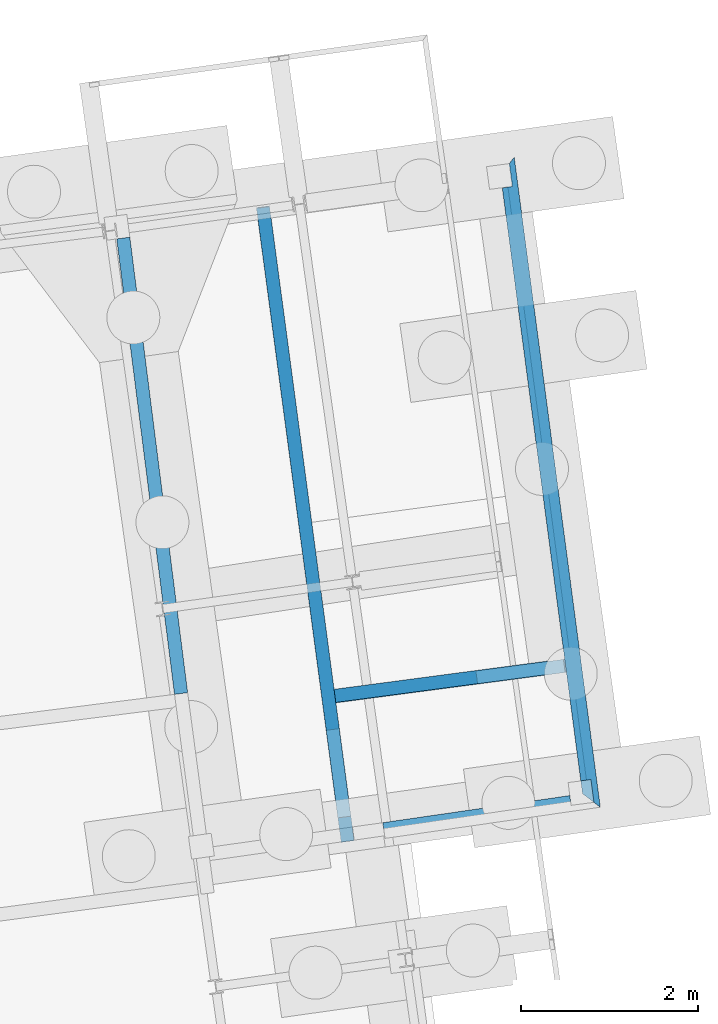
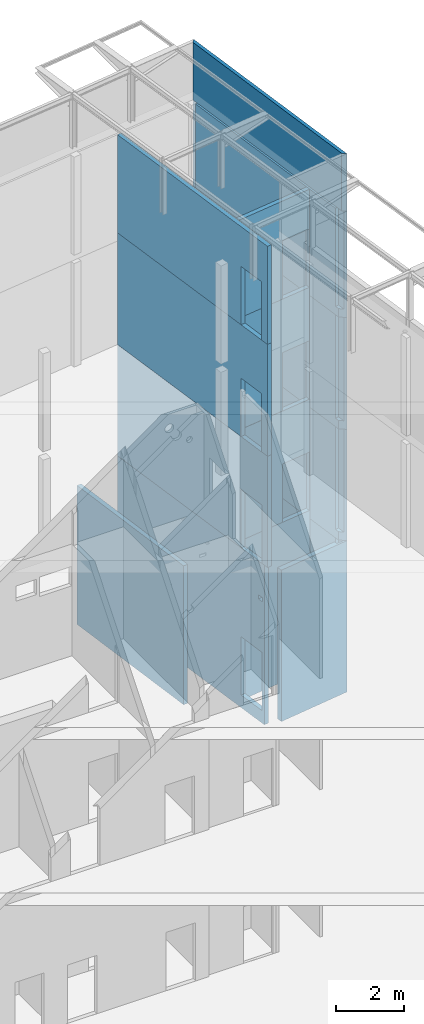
# One storey, part 79 of 82: 15 walls.
"""IFC2X3 building model written with IfcOpenShell, lengths in millimetres."""

from ifc_helpers import new_model, si_unit, frame, frame_2d, origin_with_axes, place, context, subcontext, project, spatial, polyline, rectangle, circle, outline, extrude, boolean, clip, halfspace, material, layer, layer_set, layer_usage, type_object, element, save


model = new_model("IFC2X3")

# Units and contexts
model_context = context("Model", 3, precision=1e-05, world=origin_with_axes())
body_context = subcontext(model_context, "Body", "Model", "MODEL_VIEW")
ifc_project = project(units=[si_unit("LENGTHUNIT", "METRE", prefix="MILLI"), si_unit("AREAUNIT", "SQUARE_METRE"), si_unit("VOLUMEUNIT", "CUBIC_METRE"), si_unit("MASSUNIT", "GRAM", prefix="KILO"), si_unit("TIMEUNIT", "SECOND"), si_unit("PLANEANGLEUNIT", "RADIAN"), si_unit("SOLIDANGLEUNIT", "STERADIAN"), si_unit("THERMODYNAMICTEMPERATUREUNIT", "DEGREE_CELSIUS"), si_unit("LUMINOUSINTENSITYUNIT", "LUMEN")], contexts=[model_context])

# Site, building, storey
site_placement = place(None, origin_with_axes())
site = spatial("IfcSite", under=ifc_project, at=site_placement, Name="Undefined", CompositionType="ELEMENT")
building_placement = place(site_placement, origin_with_axes())
building = spatial("IfcBuilding", under=site, at=building_placement, Name="Undefined", CompositionType="ELEMENT")
storey_placement = place(building_placement, origin_with_axes())
storey = spatial("IfcBuildingStorey", under=building, at=storey_placement, Name="Undefined", CompositionType="ELEMENT", Elevation=0.0)

# Walls
ifc_material_1 = material(Name="CONCRETE/C25/30")
ifc_layer = layer(ifc_material_1, 150.0)
ifc_layer_set = layer_set([ifc_layer], Name="Wall: Insitu CONCRETE/C25/30")
ifc_layer_usage_1 = layer_usage(ifc_layer_set, "AXIS2", "POSITIVE", -75.0)
wall_type_1 = type_object("IfcWallType", Name="4025*150", PredefinedType="NOTDEFINED")
wall_1_placement = place(storey_placement, frame((67746.0638476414, 21948.1304689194, 9305.00000000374), z_axis=(0.0, 0.0, 1.0), x_axis=(-0.991344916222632, -0.131283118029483, 0.0)))
element("IfcWallStandardCase", 1, at=wall_1_placement, inside=storey, type_object=wall_type_1, material=ifc_layer_usage_1, Name="VOILE_15CM", ObjectType="4025*150", context=body_context, shape_type="CSG", body=[
    boolean("DIFFERENCE", extrude(rectangle(XDim=2633.21509466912, YDim=150.0, at=frame_2d((0.0, 1302.26545264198), x_axis=(0.0, -1.0))), frame((0.0, 0.0, 0.0), z_axis=(0.0, 0.0, 1.0), x_axis=(-2.77555756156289e-17, -1.0, 0.0)), (0.0, 0.0, 1.0), 4025.0), extrude(outline(polyline([(5.17284206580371e-08, 4.49290382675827e-10), (2100.0, 5.82076609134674e-11), (2100.0, 1000.00000000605), (0.0, 1000.00000000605), (5.17284206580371e-08, 4.49290382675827e-10)])), frame((2.01529525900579e-07, 85.0000001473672, 2100.00000000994), z_axis=(-2.77555756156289e-17, -1.0, 0.0), x_axis=(0.0, -6.50000002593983e-08, -0.999999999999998)), (0.0, 0.0, 1.0), 170.0)),
])
ifc_layer_usage_2 = layer_usage(ifc_layer_set, "AXIS2", "POSITIVE", -75.0)
wall_2_placement = place(storey_placement, frame((64335.5497106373, 27135.0572018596, 9305.00000003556), z_axis=(0.0, 0.0, 1.0), x_axis=(0.132391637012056, -0.991197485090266, 0.0)))
element("IfcWallStandardCase", 2, at=wall_2_placement, inside=storey, type_object=wall_type_1, material=ifc_layer_usage_2, Name="VOILE_15CM", ObjectType="4025*150", context=body_context, shape_type="CSG", body=[
    boolean("DIFFERENCE", extrude(rectangle(XDim=7243.72000003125, YDim=150.0, at=frame_2d((0.0, 3621.86000001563), x_axis=(0.0, -1.0))), frame((0.0, 0.0, 0.0), z_axis=(0.0, 0.0, 1.0), x_axis=(-2.77555756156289e-17, -1.0, 0.0)), (0.0, 0.0, 1.0), 4025.0), extrude(outline(polyline([(5.17284206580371e-08, 4.49290382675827e-10), (2100.0, 5.82076609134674e-11), (2100.0, 1000.00000000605), (0.0, 1000.00000000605), (5.17284206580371e-08, 4.49290382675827e-10)])), frame((5963.56216679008, 84.9999999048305, 2099.99999995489), z_axis=(-2.77555756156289e-17, -1.0, 0.0), x_axis=(0.0, -6.50000002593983e-08, -0.999999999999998)), (0.0, 0.0, 1.0), 170.0)),
])
ifc_layer_usage_3 = layer_usage(ifc_layer_set, "AXIS2", "POSITIVE", -75.0)
wall_type_2 = type_object("IfcWallType", Name="4005*150", PredefinedType="NOTDEFINED")
wall_3_placement = place(storey_placement, frame((67746.0638476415, 21943.1204689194, 5300.00000000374), z_axis=(0.0, 0.0, 1.0), x_axis=(-0.991344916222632, -0.131283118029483, 0.0)))
element("IfcWallStandardCase", 3, at=wall_3_placement, inside=storey, type_object=wall_type_2, material=ifc_layer_usage_3, Name="VOILE_15CM", ObjectType="4005*150", context=body_context, shape_type="CSG", body=[
    boolean("DIFFERENCE", extrude(rectangle(XDim=2633.8728230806, YDim=150.0, at=frame_2d((0.0, 1301.93658843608), x_axis=(0.0, -1.0))), frame((0.0, 0.0, 0.0), z_axis=(0.0, 0.0, 1.0), x_axis=(-2.77555756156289e-17, -1.0, 0.0)), (0.0, 0.0, 1.0), 4005.0), extrude(outline(polyline([(5.17284206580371e-08, 4.49290382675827e-10), (2100.0, 5.82076609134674e-11), (2100.0, 1000.00000000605), (0.0, 1000.00000000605), (5.17284206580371e-08, 4.49290382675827e-10)])), frame((2.01529525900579e-07, 85.0000001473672, 2100.00000000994), z_axis=(-2.77555756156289e-17, -1.0, 0.0), x_axis=(0.0, -6.50000002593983e-08, -0.999999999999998)), (0.0, 0.0, 1.0), 170.0)),
])
ifc_layer_usage_4 = layer_usage(ifc_layer_set, "AXIS2", "POSITIVE", -75.0)
wall_4_placement = place(storey_placement, frame((64335.5497106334, 27130.047201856, 5300.00000002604), z_axis=(0.0, 0.0, 1.0), x_axis=(0.132391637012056, -0.991197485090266, 0.0)))
element("IfcWallStandardCase", 4, at=wall_4_placement, inside=storey, type_object=wall_type_2, material=ifc_layer_usage_4, Name="VOILE_15CM", ObjectType="4005*150", context=body_context, shape_type="CSG", body=[
    boolean("DIFFERENCE", extrude(rectangle(XDim=7258.74477905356, YDim=150.0, at=frame_2d((0.0, 3614.34761050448), x_axis=(0.0, -1.0))), frame((0.0, 0.0, 0.0), z_axis=(0.0, 0.0, 1.0), x_axis=(-2.77555756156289e-17, -1.0, 0.0)), (0.0, 0.0, 1.0), 4005.0), extrude(outline(polyline([(5.17284206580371e-08, 4.49290382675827e-10), (2100.0, 5.82076609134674e-11), (2100.0, 1000.00000000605), (0.0, 1000.00000000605), (5.17284206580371e-08, 4.49290382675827e-10)])), frame((5963.56216679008, 84.9999999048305, 2099.99999995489), z_axis=(-2.77555756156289e-17, -1.0, 0.0), x_axis=(0.0, -6.50000002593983e-08, -0.999999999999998)), (0.0, 0.0, 1.0), 170.0)),
])
wall_type_3 = type_object("IfcWallType", Name="2071*115", PredefinedType="NOTDEFINED")
wall_5_placement = place(storey_placement, frame((67122.7567107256, 27697.1900507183, 16860.0), z_axis=(0.0, 0.0, 1.0), x_axis=(0.131283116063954, -0.991344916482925, 0.0)))
element("IfcWall", 5, at=wall_5_placement, inside=storey, type_object=wall_type_3, material=ifc_material_1, Name="PANNEAU_FACADE", ObjectType="2071*115", context=body_context, shape_type="Clipping", body=[
    clip(clip(extrude(rectangle(XDim=7871.07826757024, YDim=115.0, at=frame_2d((0.0, 3712.99082140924), x_axis=(0.0, -1.0))), frame((0.0, 0.0, 0.0), z_axis=(0.0, 0.0, 1.0), x_axis=(-2.77555756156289e-17, -1.0, 0.0)), (0.0, 0.0, 1.0), 2071.0), halfspace(frame((7425.25258975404, 57.5000000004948, 1035.50000000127), z_axis=(-0.711444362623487, 0.702742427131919, 0.0), x_axis=(0.0, 0.0, 1.0)), True)), halfspace(frame((3.31783667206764e-09, 57.5000000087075, 1035.5), z_axis=(-0.706948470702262, -0.707265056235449, 0.0), x_axis=(0.0, 0.0, 1.0)), False)),
])
ifc_layer_usage_5 = layer_usage(ifc_layer_set, "AXIS2", "POSITIVE", -75.0)
wall_type_4 = type_object("IfcWallType", Name="3530*150", PredefinedType="NOTDEFINED")
wall_6_placement = place(storey_placement, frame((67746.0638476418, 21948.1304689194, 13330.0000000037), z_axis=(0.0, 0.0, 1.0), x_axis=(-0.991344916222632, -0.131283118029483, 0.0)))
element("IfcWallStandardCase", 6, at=wall_6_placement, inside=storey, type_object=wall_type_4, material=ifc_layer_usage_5, Name="VOILE_15CM", ObjectType="3530*150", context=body_context, shape_type="CSG", body=[
    boolean("DIFFERENCE", extrude(rectangle(XDim=2633.21509466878, YDim=150.0, at=frame_2d((0.0, 1302.26545264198), x_axis=(0.0, -1.0))), frame((0.0, 0.0, 0.0), z_axis=(0.0, 0.0, 1.0), x_axis=(-2.77555756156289e-17, -1.0, 0.0)), (0.0, 0.0, 1.0), 3530.0), extrude(outline(polyline([(5.17284206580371e-08, 4.49290382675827e-10), (2100.0, 5.82076609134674e-11), (2100.0, 1000.00000000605), (0.0, 1000.00000000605), (5.17284206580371e-08, 4.49290382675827e-10)])), frame((2.01529525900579e-07, 85.0000001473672, 2100.00000000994), z_axis=(-2.77555756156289e-17, -1.0, 0.0), x_axis=(0.0, -6.50000002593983e-08, -0.999999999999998)), (0.0, 0.0, 1.0), 170.0)),
])
ifc_layer_usage_6 = layer_usage(ifc_layer_set, "AXIS2", "POSITIVE", -75.0)
wall_7_placement = place(storey_placement, frame((64335.5497106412, 27135.0572018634, 13330.0000000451), z_axis=(0.0, 0.0, 1.0), x_axis=(0.132391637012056, -0.991197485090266, 0.0)))
element("IfcWallStandardCase", 7, at=wall_7_placement, inside=storey, type_object=wall_type_4, material=ifc_layer_usage_6, Name="VOILE_15CM", ObjectType="3530*150", context=body_context, shape_type="CSG", body=[
    boolean("DIFFERENCE", extrude(rectangle(XDim=7253.7784348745, YDim=150.0, at=frame_2d((0.0, 3616.830782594), x_axis=(0.0, -1.0))), frame((0.0, 0.0, 0.0), z_axis=(0.0, 0.0, 1.0), x_axis=(-2.77555756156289e-17, -1.0, 0.0)), (0.0, 0.0, 1.0), 3530.0), extrude(outline(polyline([(5.17284206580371e-08, 4.49290382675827e-10), (2100.0, 5.82076609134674e-11), (2100.0, 1000.00000000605), (0.0, 1000.00000000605), (5.17284206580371e-08, 4.49290382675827e-10)])), frame((5963.56216679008, 84.9999999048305, 2099.99999995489), z_axis=(-2.77555756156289e-17, -1.0, 0.0), x_axis=(0.0, -6.50000002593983e-08, -0.999999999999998)), (0.0, 0.0, 1.0), 170.0)),
])
wall_type_5 = type_object("IfcWallType", Name="3830*180", PredefinedType="NOTDEFINED")
wall_8_placement = place(storey_placement, frame((67090.5379735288, 27692.9235564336, 13030.0), z_axis=(0.0, 0.0, 1.0), x_axis=(0.131283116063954, -0.991344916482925, 0.0)))
solid_1 = boolean("DIFFERENCE", extrude(rectangle(XDim=265.0, YDim=265.0, at=frame_2d((5.17284206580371e-08, 4.49290382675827e-10), x_axis=(1.0, 0.0))), frame((7231.04760976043, -104.999969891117, 3830.0), z_axis=(0.0, -6.50000002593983e-08, -0.999999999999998), x_axis=(-1.0, 0.0, 0.0)), (0.0, 0.0, 1.0), 3530.0), extrude(rectangle(XDim=265.0, YDim=265.0, at=frame_2d((5.17284206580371e-08, 4.49290382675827e-10), x_axis=(1.0, 0.0))), frame((7231.04760976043, -104.999969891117, 3830.0), z_axis=(0.0, -6.50000002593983e-08, -0.999999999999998), x_axis=(-1.0, 0.0, 0.0)), (0.0, 0.0, 1.0), 3530.0))
element("IfcWall", 8, at=wall_8_placement, inside=storey, type_object=wall_type_5, material=ifc_material_1, Name="PANNEAU_FACADE", ObjectType="3830*180", context=body_context, shape_type="CSG", body=[
    boolean("DIFFERENCE", boolean("DIFFERENCE", boolean("DIFFERENCE", boolean("DIFFERENCE", boolean("DIFFERENCE", extrude(rectangle(XDim=8111.88102872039, YDim=180.0, at=frame_2d((0.0, 3713.19706695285), x_axis=(0.0, -1.0))), frame((0.0, 0.0, 0.0), z_axis=(0.0, 0.0, 1.0), x_axis=(-2.77555756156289e-17, -1.0, 0.0)), (0.0, 0.0, 1.0), 3830.0), extrude(rectangle(XDim=260.0, YDim=260.0, at=frame_2d((5.17284206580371e-08, 4.49290382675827e-10), x_axis=(1.0, 0.0))), frame((7231.04760976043, -104.999969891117, 3830.0), z_axis=(0.0, -6.50000002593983e-08, -0.999999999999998), x_axis=(-1.0, 0.0, 0.0)), (0.0, 0.0, 1.0), 3530.0)), solid_1), extrude(rectangle(XDim=265.0, YDim=265.0, at=frame_2d((5.17284206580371e-08, 4.49290382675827e-10), x_axis=(1.0, 0.0))), frame((195.087279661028, -104.94175331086, 3830.0), z_axis=(0.0, -6.50000002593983e-08, -0.999999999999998), x_axis=(-0.999999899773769, -0.000447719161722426, -5.9477162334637e-08)), (0.0, 0.0, 1.0), 3830.0)), halfspace(frame((7425.25279854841, 90.0000000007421, 1915.00000000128), z_axis=(-0.711444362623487, 0.702742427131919, 0.0), x_axis=(0.0, 0.0, 1.0)), True)), halfspace(frame((180.080816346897, -90.0000000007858, 1915.00000005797), z_axis=(0.706948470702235, 0.707265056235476, 0.0), x_axis=(0.0, 0.0, 1.0)), True)),
])
wall_type_6 = type_object("IfcWallType", Name="4025*180", PredefinedType="NOTDEFINED")
wall_9_placement = place(storey_placement, frame((67090.5379735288, 27692.9235564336, 9005.0), z_axis=(0.0, 0.0, 1.0), x_axis=(0.131283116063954, -0.991344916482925, 0.0)))
solid_2 = boolean("DIFFERENCE", extrude(rectangle(XDim=265.0, YDim=265.0, at=frame_2d((5.17284206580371e-08, 4.49290382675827e-10), x_axis=(1.0, 0.0))), frame((7231.04761196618, -104.999970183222, 4025.0), z_axis=(0.0, -6.50000002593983e-08, -0.999999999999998), x_axis=(-1.0, 0.0, 0.0)), (0.0, 0.0, 1.0), 3725.0), extrude(rectangle(XDim=265.0, YDim=265.0, at=frame_2d((5.17284206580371e-08, 4.49290382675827e-10), x_axis=(1.0, 0.0))), frame((7231.04761196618, -104.999970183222, 4025.0), z_axis=(0.0, -6.50000002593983e-08, -0.999999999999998), x_axis=(-1.0, 0.0, 0.0)), (0.0, 0.0, 1.0), 3725.0))
element("IfcWall", 9, at=wall_9_placement, inside=storey, type_object=wall_type_6, material=ifc_material_1, Name="PANNEAU_FACADE", ObjectType="4025*180", context=body_context, shape_type="CSG", body=[
    boolean("DIFFERENCE", boolean("DIFFERENCE", boolean("DIFFERENCE", boolean("DIFFERENCE", boolean("DIFFERENCE", extrude(rectangle(XDim=8111.88102868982, YDim=180.0, at=frame_2d((0.0, 3713.19706695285), x_axis=(0.0, -1.0))), frame((0.0, 0.0, 0.0), z_axis=(0.0, 0.0, 1.0), x_axis=(-2.77555756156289e-17, -1.0, 0.0)), (0.0, 0.0, 1.0), 4025.0), extrude(rectangle(XDim=260.0, YDim=260.0, at=frame_2d((5.17284206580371e-08, 4.49290382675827e-10), x_axis=(1.0, 0.0))), frame((7231.04761196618, -104.999970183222, 4025.0), z_axis=(0.0, -6.50000002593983e-08, -0.999999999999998), x_axis=(-1.0, 0.0, 0.0)), (0.0, 0.0, 1.0), 3725.0)), solid_2), extrude(rectangle(XDim=265.0, YDim=265.0, at=frame_2d((5.17284206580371e-08, 4.49290382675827e-10), x_axis=(1.0, 0.0))), frame((195.087280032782, -104.941753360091, 4025.0), z_axis=(0.0, -6.50000002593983e-08, -0.999999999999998), x_axis=(-0.999999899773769, -0.000447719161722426, -5.9477162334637e-08)), (0.0, 0.0, 1.0), 4025.0)), halfspace(frame((7425.25279854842, 90.0000000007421, 2012.50000000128), z_axis=(-0.711444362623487, 0.702742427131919, 0.0), x_axis=(0.0, 0.0, 1.0)), True)), halfspace(frame((0.000208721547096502, 90.0000000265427, 2012.5), z_axis=(-0.706948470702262, -0.707265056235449, 0.0), x_axis=(0.0, 0.0, 1.0)), False)),
])
wall_type_7 = type_object("IfcWallType", Name="4005*180", PredefinedType="NOTDEFINED")
wall_10_placement = place(storey_placement, frame((67090.5379735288, 27692.9235564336, 5000.0), z_axis=(0.0, 0.0, 1.0), x_axis=(0.131283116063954, -0.991344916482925, 0.0)))
element("IfcWall", 10, at=wall_10_placement, inside=storey, type_object=wall_type_7, material=ifc_material_1, Name="PANNEAU_FACADE", ObjectType="4005*180", context=body_context, shape_type="CSG", body=[
    boolean("DIFFERENCE", boolean("DIFFERENCE", boolean("DIFFERENCE", boolean("DIFFERENCE", extrude(rectangle(XDim=8111.88102860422, YDim=180.0, at=frame_2d((0.0, 3713.19706695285), x_axis=(0.0, -1.0))), frame((0.0, 0.0, 0.0), z_axis=(0.0, 0.0, 1.0), x_axis=(-2.77555756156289e-17, -1.0, 0.0)), (0.0, 0.0, 1.0), 4005.0), extrude(rectangle(XDim=265.0, YDim=265.0, at=frame_2d((5.17284206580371e-08, 4.49290382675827e-10), x_axis=(1.0, 0.0))), frame((7231.04760950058, -104.999969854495, 4005.0), z_axis=(0.0, -6.50000002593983e-08, -0.999999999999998), x_axis=(-1.0, 0.0, 0.0)), (0.0, 0.0, 1.0), 3705.0)), extrude(rectangle(XDim=265.0, YDim=265.0, at=frame_2d((5.17284206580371e-08, 4.49290382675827e-10), x_axis=(1.0, 0.0))), frame((195.087281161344, -104.941753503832, 4005.0), z_axis=(0.0, -6.50000002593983e-08, -0.999999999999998), x_axis=(-0.999999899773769, -0.000447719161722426, -5.9477162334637e-08)), (0.0, 0.0, 1.0), 4005.0)), halfspace(frame((7425.25279854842, 90.0000000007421, 2002.50000000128), z_axis=(-0.711444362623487, 0.702742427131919, 0.0), x_axis=(0.0, 0.0, 1.0)), True)), halfspace(frame((0.000208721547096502, 90.0000000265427, 2002.5), z_axis=(-0.706948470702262, -0.707265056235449, 0.0), x_axis=(0.0, 0.0, 1.0)), False)),
])
ifc_material_2 = material(Name="CONCRETE/BRIQUE")
wall_type_8 = type_object("IfcWallType", Name="5000*150", PredefinedType="NOTDEFINED")
wall_11_placement = place(storey_placement, frame((62737.6668119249, 26909.7864154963, 0.0), z_axis=(0.0, 0.0, 1.0), x_axis=(0.125890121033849, -0.992044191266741, 0.0)))
element("IfcWall", 11, at=wall_11_placement, inside=storey, type_object=wall_type_8, material=ifc_material_2, Name="MACONNERIE_15CM", ObjectType="5000*150", context=body_context, shape_type="Clipping", body=[
    clip(clip(extrude(rectangle(XDim=5367.26621635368, YDim=150.0, at=frame_2d((0.0, 2721.51384365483), x_axis=(0.0, -1.0))), frame((0.0, 0.0, 0.0), z_axis=(0.0, 0.0, 1.0), x_axis=(-2.77555756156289e-17, -1.0, 0.0)), (0.0, 0.0, 1.0), 5000.0), halfspace(frame((5320.90767661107, -4.35247784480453e-08, 1500.0), z_axis=(-0.999985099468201, -0.00545901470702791, 0.0), x_axis=(-0.00545901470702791, 0.999985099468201, 0.0)), True)), halfspace(frame((122.120052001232, -5.44823706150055e-08, 1500.0), z_axis=(0.999982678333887, 0.00588583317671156, 4.13013611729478e-08), x_axis=(0.00588583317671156, -0.999982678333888, 0.0)), True)),
])
wall_type_9 = type_object("IfcWallType", Name="5750*150", PredefinedType="NOTDEFINED")
wall_12_placement = place(storey_placement, frame((64335.5497106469, 27130.0472018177, -450.0), z_axis=(0.0, 0.0, 1.0), x_axis=(0.132391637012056, -0.991197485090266, 0.0)))
element("IfcWall", 12, at=wall_12_placement, inside=storey, type_object=wall_type_9, material=ifc_material_1, Name="VOILE_15CM", ObjectType="5750*150", context=body_context, shape_type="CSG", body=[
    boolean("DIFFERENCE", boolean("DIFFERENCE", boolean("DIFFERENCE", extrude(rectangle(XDim=7185.94650828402, YDim=150.0, at=frame_2d((0.0, 3577.94847508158), x_axis=(0.0, -1.0))), frame((0.0, 0.0, 0.0), z_axis=(0.0, 0.0, 1.0), x_axis=(-2.77555756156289e-17, -1.0, 0.0)), (0.0, 0.0, 1.0), 5750.0), extrude(rectangle(XDim=200.0, YDim=150.0, at=frame_2d((5.17284206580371e-08, 4.49290382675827e-10), x_axis=(1.0, 0.0))), frame((6901.67996970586, -85.0000000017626, 4455.1396484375), z_axis=(0.0, 1.0, 0.0), x_axis=(-1.0, 0.0, 0.0)), (0.0, 0.0, 1.0), 170.0)), extrude(outline(polyline([(5.17284206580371e-08, 4.49290382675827e-10), (2100.0, 5.82076609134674e-11), (2100.0, 1000.00000000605), (0.0, 1000.00000000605), (5.17284206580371e-08, 4.49290382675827e-10)])), frame((5963.56216669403, 84.9999999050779, 2550.0), z_axis=(-2.77555756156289e-17, -1.0, 0.0), x_axis=(0.0, -6.50000002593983e-08, -0.999999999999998)), (0.0, 0.0, 1.0), 170.0)), halfspace(frame((7083.13501325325, -4.19531716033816e-08, 1875.0), z_axis=(-0.999967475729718, -0.0080652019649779, 0.0), x_axis=(-0.0080652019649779, 0.999967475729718, 0.0)), True)),
])
ifc_layer_usage_7 = layer_usage(ifc_layer_set, "AXIS2", "POSITIVE", -75.0)
wall_13_placement = place(storey_placement, frame((67746.0638476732, 21943.1204688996, -449.999999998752), z_axis=(0.0, 0.0, 1.0), x_axis=(-0.991344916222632, -0.131283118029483, 0.0)))
element("IfcWallStandardCase", 13, at=wall_13_placement, inside=storey, type_object=wall_type_9, material=ifc_layer_usage_7, Name="VOILE_15CM", ObjectType="5750*150", context=body_context, shape_type="CSG", body=[
    boolean("DIFFERENCE", boolean("DIFFERENCE", extrude(rectangle(XDim=2633.8728230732, YDim=150.0, at=frame_2d((0.0, 1301.93658843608), x_axis=(0.0, -1.0))), frame((0.0, 0.0, 0.0), z_axis=(0.0, 0.0, 1.0), x_axis=(-2.77555756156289e-17, -1.0, 0.0)), (0.0, 0.0, 1.0), 5750.0), extrude(circle(Radius=50.0, at=frame_2d((5.17284206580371e-08, 4.49290382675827e-10), x_axis=(1.0, 0.0))), frame((263.634364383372, -85.0000000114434, 2658.99734496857), z_axis=(0.0, 1.0, 0.0), x_axis=(-1.0, 0.0, 0.0)), (0.0, 0.0, 1.0), 170.0)), extrude(outline(polyline([(5.17284206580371e-08, 4.49290382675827e-10), (2100.0, 5.82076609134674e-11), (2100.0, 1000.00000000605), (0.0, 1000.00000000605), (5.17284206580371e-08, 4.49290382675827e-10)])), frame((1.05094004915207e-07, 85.0000001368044, 2550.00000000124), z_axis=(-2.77555756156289e-17, -1.0, 0.0), x_axis=(0.0, -6.50000002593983e-08, -0.999999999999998)), (0.0, 0.0, 1.0), 170.0)),
])
wall_type_10 = type_object("IfcWallType", Name="5450*180", PredefinedType="NOTDEFINED")
wall_14_placement = place(storey_placement, frame((68141.6569363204, 20432.8213262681, -449.999999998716), z_axis=(0.0, 0.0, 1.0), x_axis=(-0.989654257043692, -0.143472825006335, 0.0)))
element("IfcWall", 14, at=wall_14_placement, inside=storey, type_object=wall_type_10, material=ifc_material_1, Name="PANNEAU_FACADE", ObjectType="5450*180", context=body_context, shape_type="CSG", body=[
    boolean("DIFFERENCE", boolean("DIFFERENCE", extrude(rectangle(XDim=2667.12807187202, YDim=180.0, at=frame_2d((0.0, 1129.04896410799), x_axis=(0.0, -1.0))), frame((0.0, 0.0, 0.0), z_axis=(0.0, 0.0, 1.0), x_axis=(-2.77555756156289e-17, -1.0, 0.0)), (0.0, 0.0, 1.0), 5450.0), extrude(rectangle(XDim=260.0, YDim=260.0, at=frame_2d((5.17284206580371e-08, 4.49290382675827e-10), x_axis=(1.0, 0.0))), frame((192.595434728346, -106.590183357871, 5449.99999999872), z_axis=(0.0, -6.50000002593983e-08, -0.999999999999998), x_axis=(-0.0123061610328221, -0.999924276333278, -6.44374198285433e-08)), (0.0, 0.0, 1.0), 5450.0)), halfspace(frame((0.000130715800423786, 90.0000000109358, 2725.0), z_axis=(-0.711444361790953, -0.702742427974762, 0.0), x_axis=(0.0, 0.0, 1.0)), False)),
])
wall_15_placement = place(storey_placement, frame((67090.5379735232, 27692.9235564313, -450.0), z_axis=(0.0, 0.0, 1.0), x_axis=(0.131283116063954, -0.991344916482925, 0.0)))
solid_3 = boolean("DIFFERENCE", extrude(rectangle(XDim=265.0, YDim=265.0, at=frame_2d((5.17284206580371e-08, 4.49290382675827e-10), x_axis=(1.0, 0.0))), frame((7231.04761028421, -104.99996998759, 5450.0), z_axis=(0.0, -6.50000002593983e-08, -0.999999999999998), x_axis=(-1.0, 0.0, 0.0)), (0.0, 0.0, 1.0), 5450.0), extrude(rectangle(XDim=265.0, YDim=265.0, at=frame_2d((5.17284206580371e-08, 4.49290382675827e-10), x_axis=(1.0, 0.0))), frame((7231.04761028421, -104.99996998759, 5450.0), z_axis=(0.0, -6.50000002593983e-08, -0.999999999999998), x_axis=(-1.0, 0.0, 0.0)), (0.0, 0.0, 1.0), 5450.0))
element("IfcWall", 15, at=wall_15_placement, inside=storey, type_object=wall_type_10, material=ifc_material_1, Name="PANNEAU_FACADE", ObjectType="5450*180", context=body_context, shape_type="CSG", body=[
    boolean("DIFFERENCE", boolean("DIFFERENCE", boolean("DIFFERENCE", boolean("DIFFERENCE", boolean("DIFFERENCE", boolean("DIFFERENCE", boolean("DIFFERENCE", extrude(rectangle(XDim=8111.88102864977, YDim=180.0, at=frame_2d((0.0, 3713.19706695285), x_axis=(0.0, -1.0))), frame((0.0, 0.0, 0.0), z_axis=(0.0, 0.0, 1.0), x_axis=(-2.77555756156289e-17, -1.0, 0.0)), (0.0, 0.0, 1.0), 5450.0), extrude(rectangle(XDim=260.0, YDim=260.0, at=frame_2d((5.17284206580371e-08, 4.49290382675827e-10), x_axis=(1.0, 0.0))), frame((7231.04761028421, -104.99996998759, 5450.0), z_axis=(0.0, -6.50000002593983e-08, -0.999999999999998), x_axis=(-1.0, 0.0, 0.0)), (0.0, 0.0, 1.0), 5450.0)), solid_3), extrude(rectangle(XDim=265.0, YDim=265.0, at=frame_2d((5.17284206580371e-08, 4.49290382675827e-10), x_axis=(1.0, 0.0))), frame((195.087280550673, -104.941753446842, 5450.0), z_axis=(0.0, -6.50000002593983e-08, -0.999999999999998), x_axis=(-0.999999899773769, -0.000447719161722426, -5.9477162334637e-08)), (0.0, 0.0, 1.0), 5450.0)), extrude(circle(Radius=50.0, at=frame_2d((5.17284206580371e-08, 4.49290382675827e-10), x_axis=(1.0, 0.0))), frame((5593.26160569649, -100.000000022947, 518.692779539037), z_axis=(0.0, 1.0, 0.0), x_axis=(-1.0, 0.0, 0.0)), (0.0, 0.0, 1.0), 200.0)), extrude(outline(polyline([(5.17284206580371e-08, 4.49290382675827e-10), (2100.0, 5.82076609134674e-11), (2100.0, 1200.00000000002), (0.0, 1199.99999998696), (5.17284206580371e-08, 4.49290382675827e-10)])), frame((7061.09754056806, -100.000000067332, 2655.0), z_axis=(0.0, 1.0, 0.0), x_axis=(0.0, -6.50000002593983e-08, -0.999999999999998)), (0.0, 0.0, 1.0), 200.0)), halfspace(frame((7425.2527985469, 90.0000000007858, 7452.50000000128), z_axis=(-0.711444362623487, 0.702742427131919, 0.0), x_axis=(0.0, 0.0, 1.0)), True)), halfspace(frame((0.00020872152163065, 90.0000000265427, 2725.0), z_axis=(-0.706948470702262, -0.707265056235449, 0.0), x_axis=(0.0, 0.0, 1.0)), False)),
])

save(model, "model.ifc")
